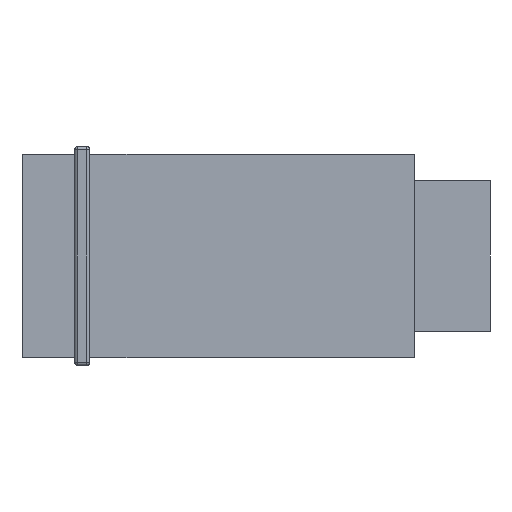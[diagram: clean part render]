
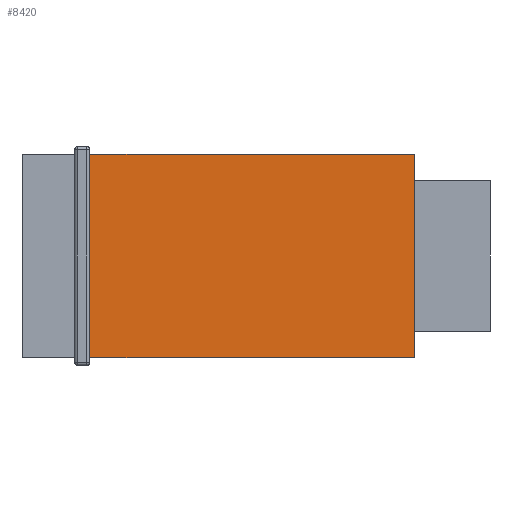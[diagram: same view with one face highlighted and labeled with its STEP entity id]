
A CAD part, left-side view. The second image highlights one B-rep face of the part: STEP entity #8420.
In plain terms, the highlighted planar face has unit normal (-1, 0, 0).
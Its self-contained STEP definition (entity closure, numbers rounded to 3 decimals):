
#451 = EDGE_LOOP ( 'NONE', ( #14865, #14359, #609, #12886 ) ) ;
#581 = VECTOR ( 'NONE', #12875, 1000. ) ;
#609 = ORIENTED_EDGE ( 'NONE', *, *, #9886, .F. ) ;
#1028 = LINE ( 'NONE', #1886, #581 ) ;
#1621 = LINE ( 'NONE', #11359, #8547 ) ;
#1817 = VERTEX_POINT ( 'NONE', #5436 ) ;
#1886 = CARTESIAN_POINT ( 'NONE',  ( 0., 26., 13.5 ) ) ;
#2297 = VERTEX_POINT ( 'NONE', #14728 ) ;
#3588 = DIRECTION ( 'NONE',  ( 0., 0., -1. ) ) ;
#4270 = LINE ( 'NONE', #12471, #15076 ) ;
#4279 = DIRECTION ( 'NONE',  ( 0., 0., 1. ) ) ;
#4658 = DIRECTION ( 'NONE',  ( 1., 0., 0. ) ) ;
#5011 = CARTESIAN_POINT ( 'NONE',  ( 0., 0., 9.75 ) ) ;
#5078 = EDGE_CURVE ( 'NONE', #2297, #1817, #4270, .T. ) ;
#5436 = CARTESIAN_POINT ( 'NONE',  ( 0., 21.5, 13.5 ) ) ;
#6100 = VERTEX_POINT ( 'NONE', #8005 ) ;
#8005 = CARTESIAN_POINT ( 'NONE',  ( 0., 0., 13.5 ) ) ;
#8420 = ADVANCED_FACE ( 'NONE', ( #13830 ), #12834, .F. ) ;
#8547 = VECTOR ( 'NONE', #8698, 1000. ) ;
#8698 = DIRECTION ( 'NONE',  ( 0., -1., 0. ) ) ;
#9886 = EDGE_CURVE ( 'NONE', #6100, #13250, #10426, .T. ) ;
#10128 = CARTESIAN_POINT ( 'NONE',  ( 0., 0., 9.75 ) ) ;
#10426 = LINE ( 'NONE', #5011, #17047 ) ;
#11359 = CARTESIAN_POINT ( 'NONE',  ( 0., 0., 0. ) ) ;
#11574 = EDGE_CURVE ( 'NONE', #1817, #6100, #1028, .T. ) ;
#12471 = CARTESIAN_POINT ( 'NONE',  ( 0., 21.5, 0. ) ) ;
#12834 = PLANE ( 'NONE',  #13308 ) ;
#12875 = DIRECTION ( 'NONE',  ( 0., -1., 0. ) ) ;
#12886 = ORIENTED_EDGE ( 'NONE', *, *, #11574, .F. ) ;
#13250 = VERTEX_POINT ( 'NONE', #13905 ) ;
#13308 = AXIS2_PLACEMENT_3D ( 'NONE', #10128, #4658, #14137 ) ;
#13830 = FACE_OUTER_BOUND ( 'NONE', #451, .T. ) ;
#13905 = CARTESIAN_POINT ( 'NONE',  ( 0., 0., 0. ) ) ;
#14137 = DIRECTION ( 'NONE',  ( 0., 0., -1. ) ) ;
#14359 = ORIENTED_EDGE ( 'NONE', *, *, #17600, .T. ) ;
#14728 = CARTESIAN_POINT ( 'NONE',  ( 0., 21.5, 0. ) ) ;
#14865 = ORIENTED_EDGE ( 'NONE', *, *, #5078, .F. ) ;
#15076 = VECTOR ( 'NONE', #4279, 1000. ) ;
#17047 = VECTOR ( 'NONE', #3588, 1000. ) ;
#17600 = EDGE_CURVE ( 'NONE', #2297, #13250, #1621, .T. ) ;
